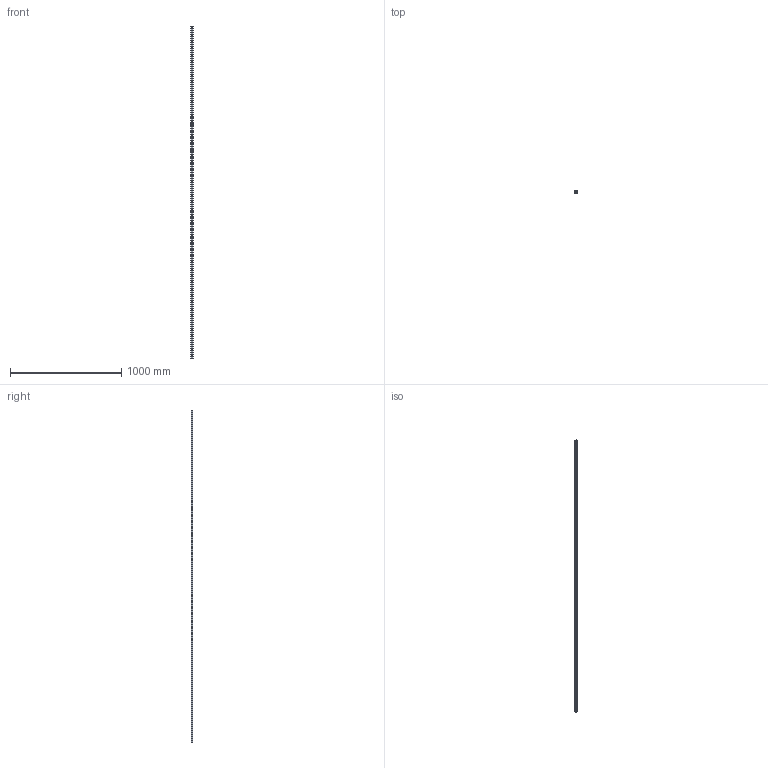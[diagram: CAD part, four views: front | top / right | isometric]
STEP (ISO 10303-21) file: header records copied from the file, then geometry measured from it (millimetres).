
FILE_DESCRIPTION (( 'STEP AP203' ), '1' );
FILE_NAME ('L1016.BL20-2980.step', '2019-06-12T11:55:11', ( '' ), ( '' ), 'SwSTEP 2.0', 'SolidWorks 2017', '' );
FILE_SCHEMA (( 'CONFIG_CONTROL_DESIGN' ));
Length unit declared in the file: millimetre
Products named in the file (1): L1016.BL20-2980
Bounding box: 20 x 16.3 x 2980 mm (x, y, z)
Volume: 828360.5 mm3; surface area: 239690.1 mm2
Topology: 1 solids, 1 shells, 276 faces, 672 edges, 448 vertices
Faces by surface type: cylinder 204, plane 72
Entity records: 8601 total; most frequent: DIRECTION 1634, CARTESIAN_POINT 1397, ORIENTED_EDGE 1344, AXIS2_PLACEMENT_3D 685, EDGE_CURVE 672, VERTEX_POINT 448, EDGE_LOOP 426, CIRCLE 408
